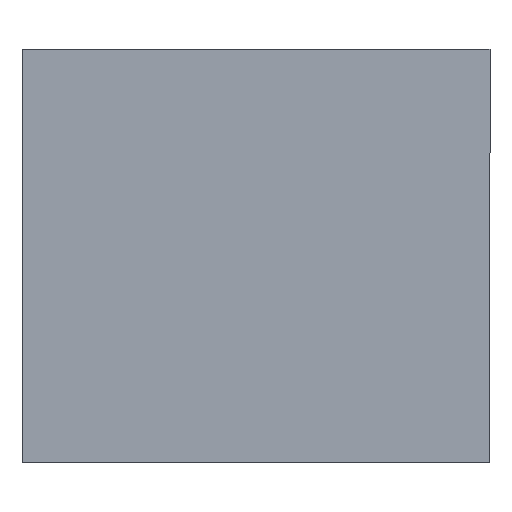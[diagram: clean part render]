
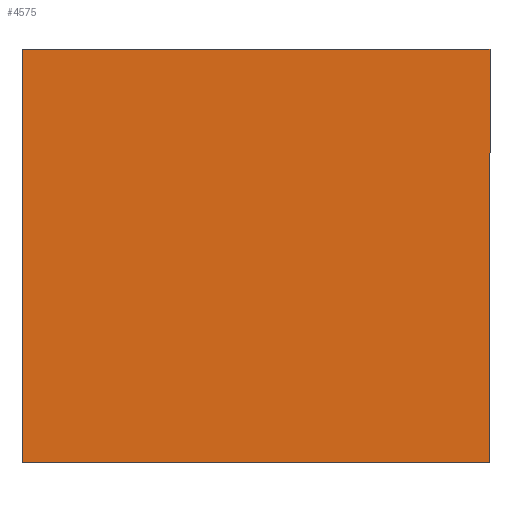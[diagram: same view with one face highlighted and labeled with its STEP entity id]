
A CAD part, front view. The second image highlights one B-rep face of the part: STEP entity #4575.
In plain terms, the highlighted planar face has unit normal (0, -1, 0).
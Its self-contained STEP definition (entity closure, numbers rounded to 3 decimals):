
#204 = EDGE_LOOP ( 'NONE', ( #2317, #4118, #4456, #2760 ) ) ;
#356 = CARTESIAN_POINT ( 'NONE',  ( -19.558, -0.127, -17.272 ) ) ;
#421 = DIRECTION ( 'NONE',  ( -1., 0., 0. ) ) ;
#546 = VERTEX_POINT ( 'NONE', #356 ) ;
#735 = DIRECTION ( 'NONE',  ( 0., 0., -1. ) ) ;
#834 = CARTESIAN_POINT ( 'NONE',  ( -19.558, -0.127, 17.272 ) ) ;
#1126 = EDGE_CURVE ( 'NONE', #3522, #2269, #4065, .T. ) ;
#1159 = CARTESIAN_POINT ( 'NONE',  ( -19.558, -0.127, -17.272 ) ) ;
#1556 = CARTESIAN_POINT ( 'NONE',  ( -19.558, -0.127, 17.272 ) ) ;
#1594 = LINE ( 'NONE', #1958, #2957 ) ;
#1958 = CARTESIAN_POINT ( 'NONE',  ( -19.558, -0.127, -17.272 ) ) ;
#1976 = DIRECTION ( 'NONE',  ( 0., 1., 0. ) ) ;
#2022 = VERTEX_POINT ( 'NONE', #2966 ) ;
#2259 = DIRECTION ( 'NONE',  ( 0., 0., 1. ) ) ;
#2269 = VERTEX_POINT ( 'NONE', #3286 ) ;
#2317 = ORIENTED_EDGE ( 'NONE', *, *, #4047, .F. ) ;
#2476 = FACE_OUTER_BOUND ( 'NONE', #204, .T. ) ;
#2505 = EDGE_CURVE ( 'NONE', #2022, #546, #3649, .T. ) ;
#2511 = VECTOR ( 'NONE', #735, 1000. ) ;
#2524 = LINE ( 'NONE', #2547, #2511 ) ;
#2547 = CARTESIAN_POINT ( 'NONE',  ( 19.558, -0.127, -17.272 ) ) ;
#2760 = ORIENTED_EDGE ( 'NONE', *, *, #1126, .F. ) ;
#2839 = PLANE ( 'NONE',  #4268 ) ;
#2957 = VECTOR ( 'NONE', #3724, 1000. ) ;
#2966 = CARTESIAN_POINT ( 'NONE',  ( 19.558, -0.127, -17.272 ) ) ;
#2990 = DIRECTION ( 'NONE',  ( 1., 0., 0. ) ) ;
#3286 = CARTESIAN_POINT ( 'NONE',  ( 19.558, -0.127, 17.272 ) ) ;
#3303 = VECTOR ( 'NONE', #2990, 1000. ) ;
#3522 = VERTEX_POINT ( 'NONE', #3680 ) ;
#3649 = LINE ( 'NONE', #1159, #4224 ) ;
#3680 = CARTESIAN_POINT ( 'NONE',  ( -19.558, -0.127, 17.272 ) ) ;
#3724 = DIRECTION ( 'NONE',  ( 0., 0., 1. ) ) ;
#4047 = EDGE_CURVE ( 'NONE', #546, #3522, #1594, .T. ) ;
#4065 = LINE ( 'NONE', #1556, #3303 ) ;
#4118 = ORIENTED_EDGE ( 'NONE', *, *, #2505, .F. ) ;
#4224 = VECTOR ( 'NONE', #421, 1000. ) ;
#4268 = AXIS2_PLACEMENT_3D ( 'NONE', #834, #1976, #2259 ) ;
#4456 = ORIENTED_EDGE ( 'NONE', *, *, #4533, .F. ) ;
#4533 = EDGE_CURVE ( 'NONE', #2269, #2022, #2524, .T. ) ;
#4575 = ADVANCED_FACE ( 'NONE', ( #2476 ), #2839, .F. ) ;
